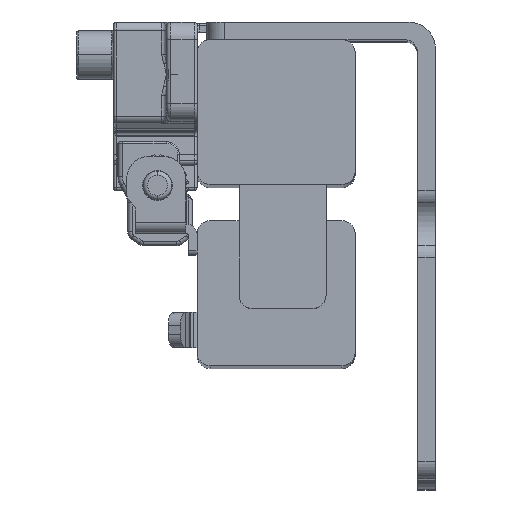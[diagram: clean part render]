
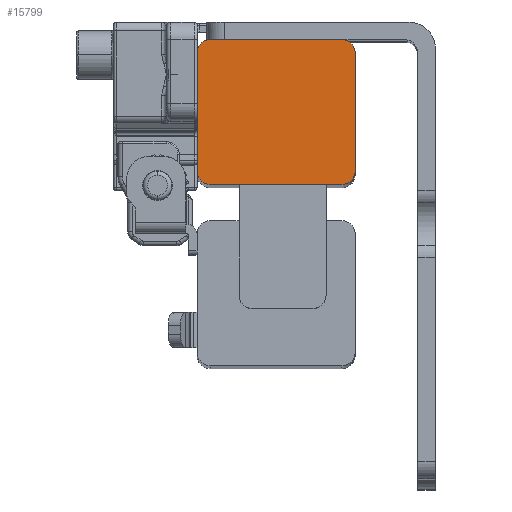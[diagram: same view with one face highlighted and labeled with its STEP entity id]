
A CAD part, top view. The second image highlights one B-rep face of the part: STEP entity #15799.
In plain terms, the highlighted planar face has unit normal (0, 0, 1).
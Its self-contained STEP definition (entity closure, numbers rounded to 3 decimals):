
#822 = FACE_OUTER_BOUND ( 'NONE', #43161, .T. ) ;
#2070 = CARTESIAN_POINT ( 'NONE',  ( -4809.489, 38.309, 119.449 ) ) ;
#2283 = CARTESIAN_POINT ( 'NONE',  ( -4824.489, 38.309, 119.449 ) ) ;
#2652 = CARTESIAN_POINT ( 'NONE',  ( -4809.489, 21.809, 119.449 ) ) ;
#2858 = ORIENTED_EDGE ( 'NONE', *, *, #24596, .F. ) ;
#3330 = ORIENTED_EDGE ( 'NONE', *, *, #25408, .F. ) ;
#4394 = CIRCLE ( 'NONE', #43183, 1.5 ) ;
#6590 = ORIENTED_EDGE ( 'NONE', *, *, #24308, .T. ) ;
#8791 = AXIS2_PLACEMENT_3D ( 'NONE', #58056, #47988, #31711 ) ;
#8816 = AXIS2_PLACEMENT_3D ( 'NONE', #66773, #56748, #46356 ) ;
#9199 = VECTOR ( 'NONE', #10780, 1000. ) ;
#9975 = CIRCLE ( 'NONE', #14380, 1.5 ) ;
#10011 = CARTESIAN_POINT ( 'NONE',  ( -4824.489, 36.809, 119.449 ) ) ;
#10780 = DIRECTION ( 'NONE',  ( -1., 0., 0. ) ) ;
#11085 = CIRCLE ( 'NONE', #8816, 1.5 ) ;
#11172 = VERTEX_POINT ( 'NONE', #38504 ) ;
#11560 = CARTESIAN_POINT ( 'NONE',  ( -4809.489, 23.309, 119.449 ) ) ;
#14046 = VERTEX_POINT ( 'NONE', #2070 ) ;
#14380 = AXIS2_PLACEMENT_3D ( 'NONE', #10011, #30836, #51278 ) ;
#15799 = ADVANCED_FACE ( 'NONE', ( #822 ), #22010, .F. ) ;
#16603 = LINE ( 'NONE', #64409, #50078 ) ;
#16775 = DIRECTION ( 'NONE',  ( 0., 0., -1. ) ) ;
#18866 = DIRECTION ( 'NONE',  ( 0., -1., 0. ) ) ;
#20415 = EDGE_CURVE ( 'NONE', #14046, #11172, #11085, .T. ) ;
#21330 = VECTOR ( 'NONE', #41086, 1000. ) ;
#21984 = DIRECTION ( 'NONE',  ( 1., 0., 0. ) ) ;
#22010 = PLANE ( 'NONE',  #8791 ) ;
#22210 = ORIENTED_EDGE ( 'NONE', *, *, #53909, .F. ) ;
#23531 = ORIENTED_EDGE ( 'NONE', *, *, #20415, .F. ) ;
#24308 = EDGE_CURVE ( 'NONE', #54281, #11172, #33801, .T. ) ;
#24596 = EDGE_CURVE ( 'NONE', #43887, #31492, #4394, .T. ) ;
#25408 = EDGE_CURVE ( 'NONE', #38614, #30819, #9975, .T. ) ;
#25595 = EDGE_CURVE ( 'NONE', #43887, #34610, #16603, .T. ) ;
#27066 = CIRCLE ( 'NONE', #52478, 1.5 ) ;
#30204 = ORIENTED_EDGE ( 'NONE', *, *, #31734, .T. ) ;
#30819 = VERTEX_POINT ( 'NONE', #2283 ) ;
#30836 = DIRECTION ( 'NONE',  ( 0., 0., -1. ) ) ;
#31492 = VERTEX_POINT ( 'NONE', #50352 ) ;
#31539 = DIRECTION ( 'NONE',  ( 1., 0., 0. ) ) ;
#31711 = DIRECTION ( 'NONE',  ( 0., 1., 0. ) ) ;
#31734 = EDGE_CURVE ( 'NONE', #14046, #30819, #63805, .T. ) ;
#33801 = LINE ( 'NONE', #62514, #21330 ) ;
#34610 = VERTEX_POINT ( 'NONE', #2652 ) ;
#35798 = CARTESIAN_POINT ( 'NONE',  ( -4825.989, 36.809, 119.449 ) ) ;
#38504 = CARTESIAN_POINT ( 'NONE',  ( -4807.989, 36.809, 119.449 ) ) ;
#38614 = VERTEX_POINT ( 'NONE', #35798 ) ;
#41086 = DIRECTION ( 'NONE',  ( 0., 1., 0. ) ) ;
#41777 = DIRECTION ( 'NONE',  ( 1., 0., 0. ) ) ;
#42121 = DIRECTION ( 'NONE',  ( 0., 0., -1. ) ) ;
#42555 = CARTESIAN_POINT ( 'NONE',  ( -4807.989, 23.309, 119.449 ) ) ;
#43161 = EDGE_LOOP ( 'NONE', ( #2858, #55435, #22210, #6590, #23531, #30204, #3330, #64596 ) ) ;
#43183 = AXIS2_PLACEMENT_3D ( 'NONE', #46251, #42121, #41777 ) ;
#43674 = VECTOR ( 'NONE', #18866, 1000. ) ;
#43887 = VERTEX_POINT ( 'NONE', #57719 ) ;
#45214 = LINE ( 'NONE', #66294, #43674 ) ;
#46251 = CARTESIAN_POINT ( 'NONE',  ( -4824.489, 23.309, 119.449 ) ) ;
#46356 = DIRECTION ( 'NONE',  ( 1., 0., 0. ) ) ;
#47988 = DIRECTION ( 'NONE',  ( 0., 0., -1. ) ) ;
#50078 = VECTOR ( 'NONE', #31539, 1000. ) ;
#50352 = CARTESIAN_POINT ( 'NONE',  ( -4825.989, 23.309, 119.449 ) ) ;
#51278 = DIRECTION ( 'NONE',  ( 1., 0., 0. ) ) ;
#52478 = AXIS2_PLACEMENT_3D ( 'NONE', #11560, #16775, #21984 ) ;
#53793 = EDGE_CURVE ( 'NONE', #38614, #31492, #45214, .T. ) ;
#53909 = EDGE_CURVE ( 'NONE', #54281, #34610, #27066, .T. ) ;
#54281 = VERTEX_POINT ( 'NONE', #42555 ) ;
#55435 = ORIENTED_EDGE ( 'NONE', *, *, #25595, .T. ) ;
#56748 = DIRECTION ( 'NONE',  ( 0., 0., -1. ) ) ;
#57719 = CARTESIAN_POINT ( 'NONE',  ( -4824.489, 21.809, 119.449 ) ) ;
#57935 = CARTESIAN_POINT ( 'NONE',  ( -4825.989, 38.309, 119.449 ) ) ;
#58056 = CARTESIAN_POINT ( 'NONE',  ( -4824.499, 36.819, 119.449 ) ) ;
#62514 = CARTESIAN_POINT ( 'NONE',  ( -4807.989, 38.309, 119.449 ) ) ;
#63805 = LINE ( 'NONE', #57935, #9199 ) ;
#64409 = CARTESIAN_POINT ( 'NONE',  ( -4807.989, 21.809, 119.449 ) ) ;
#64596 = ORIENTED_EDGE ( 'NONE', *, *, #53793, .T. ) ;
#66294 = CARTESIAN_POINT ( 'NONE',  ( -4825.989, 38.309, 119.449 ) ) ;
#66773 = CARTESIAN_POINT ( 'NONE',  ( -4809.489, 36.809, 119.449 ) ) ;
